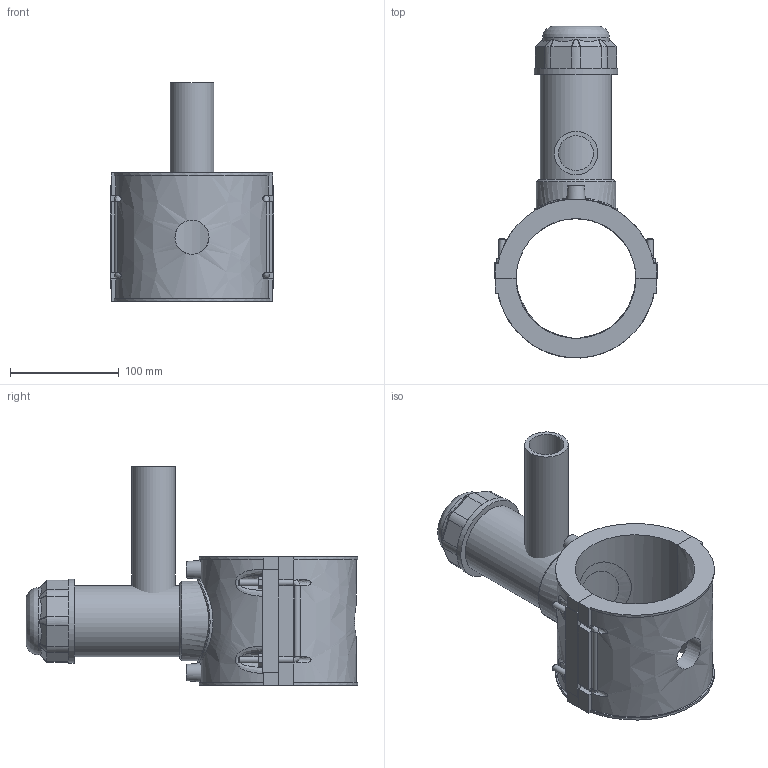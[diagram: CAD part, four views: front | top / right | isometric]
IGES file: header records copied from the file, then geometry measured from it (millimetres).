
Global section: file name: 4963P4110040; native system: Autodesk Inventor 2019; preprocessor: unknown; author: KIM; date: 20220317.112753; units: millimetre
Bounding box: 150 x 304.84 x 201 mm (x, y, z)
Volume: 1210347.5 mm3; surface area: 232414.4 mm2
Topology: 3 solids, 3 shells, 218 faces, 559 edges, 364 vertices
Faces by surface type: bspline 218
